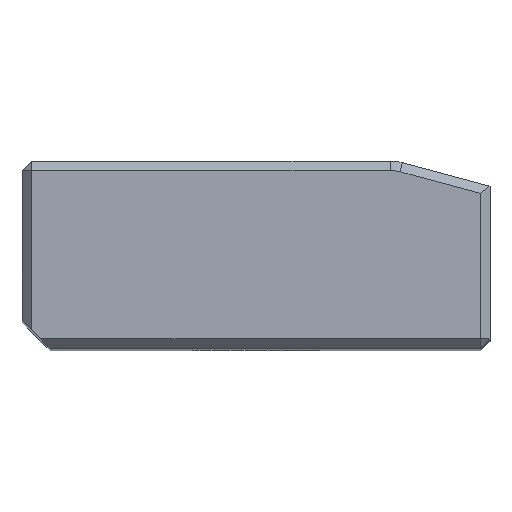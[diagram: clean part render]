
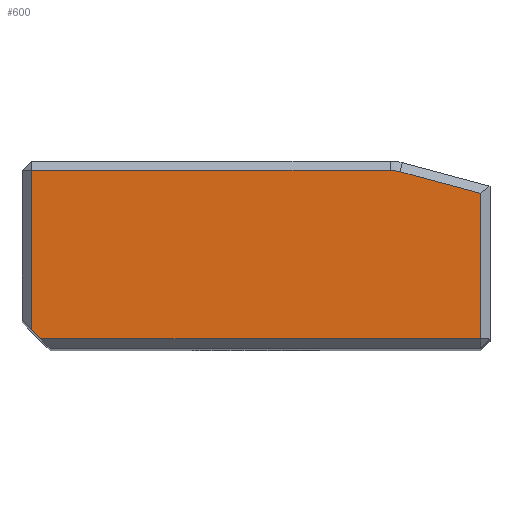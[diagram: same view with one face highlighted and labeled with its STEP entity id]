
A CAD part, top view. The second image highlights one B-rep face of the part: STEP entity #600.
In plain terms, the highlighted planar face has unit normal (0, 0, 1).
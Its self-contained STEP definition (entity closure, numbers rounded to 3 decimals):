
#48=PLANE('',#669);
#81=FACE_OUTER_BOUND('',#120,.T.);
#120=EDGE_LOOP('',(#511,#512,#513,#514,#515,#516,#517));
#140=LINE('',#885,#199);
#153=LINE('',#912,#212);
#156=LINE('',#917,#215);
#159=LINE('',#928,#218);
#176=LINE('',#964,#235);
#181=LINE('',#972,#240);
#199=VECTOR('',#721,10.);
#212=VECTOR('',#744,10.);
#215=VECTOR('',#749,10.);
#218=VECTOR('',#760,10.);
#235=VECTOR('',#797,10.);
#240=VECTOR('',#808,10.);
#254=CIRCLE('',#648,4.);
#273=VERTEX_POINT('',#874);
#276=VERTEX_POINT('',#881);
#284=VERTEX_POINT('',#905);
#286=VERTEX_POINT('',#910);
#287=VERTEX_POINT('',#915);
#288=VERTEX_POINT('',#919);
#291=VERTEX_POINT('',#927);
#326=EDGE_CURVE('',#273,#276,#140,.T.);
#339=EDGE_CURVE('',#286,#284,#153,.T.);
#342=EDGE_CURVE('',#284,#287,#156,.T.);
#345=EDGE_CURVE('',#287,#288,#254,.T.);
#347=EDGE_CURVE('',#288,#291,#159,.T.);
#366=EDGE_CURVE('',#291,#273,#176,.T.);
#371=EDGE_CURVE('',#276,#286,#181,.T.);
#511=ORIENTED_EDGE('',*,*,#339,.F.);
#512=ORIENTED_EDGE('',*,*,#371,.F.);
#513=ORIENTED_EDGE('',*,*,#326,.F.);
#514=ORIENTED_EDGE('',*,*,#366,.F.);
#515=ORIENTED_EDGE('',*,*,#347,.F.);
#516=ORIENTED_EDGE('',*,*,#345,.F.);
#517=ORIENTED_EDGE('',*,*,#342,.F.);
#600=ADVANCED_FACE('',(#81),#48,.T.);
#648=AXIS2_PLACEMENT_3D('',#923,#755,#756);
#669=AXIS2_PLACEMENT_3D('',#983,#823,#824);
#721=DIRECTION('',(-1.,0.,0.));
#744=DIRECTION('',(0.,1.,0.));
#749=DIRECTION('',(1.,0.,0.));
#755=DIRECTION('center_axis',(0.,0.,-1.));
#756=DIRECTION('ref_axis',(0.131,0.991,0.));
#760=DIRECTION('',(0.966,-0.259,0.));
#797=DIRECTION('',(0.,-1.,0.));
#808=DIRECTION('',(-0.707,0.707,0.));
#823=DIRECTION('center_axis',(0.,0.,1.));
#824=DIRECTION('ref_axis',(1.,0.,0.));
#874=CARTESIAN_POINT('',(49.,1.,160.));
#881=CARTESIAN_POINT('',(2.,1.,160.));
#885=CARTESIAN_POINT('',(12.5,1.,160.));
#905=CARTESIAN_POINT('',(1.,19.,160.));
#910=CARTESIAN_POINT('',(1.,2.,160.));
#912=CARTESIAN_POINT('',(1.,0.,160.));
#915=CARTESIAN_POINT('',(39.342,19.,160.));
#917=CARTESIAN_POINT('',(12.5,19.,160.));
#919=CARTESIAN_POINT('',(40.377,18.864,160.));
#923=CARTESIAN_POINT('Origin',(39.342,15.,160.));
#927=CARTESIAN_POINT('',(49.,16.553,160.));
#928=CARTESIAN_POINT('',(26.081,22.694,160.));
#964=CARTESIAN_POINT('',(49.,0.,160.));
#972=CARTESIAN_POINT('',(1.5,1.5,160.));
#983=CARTESIAN_POINT('Origin',(0.,0.,160.));
